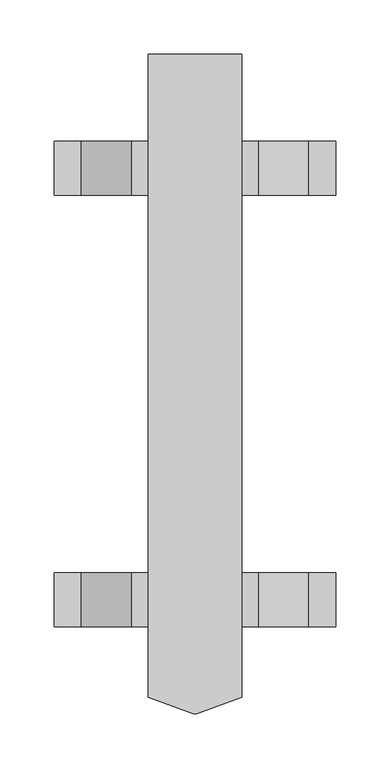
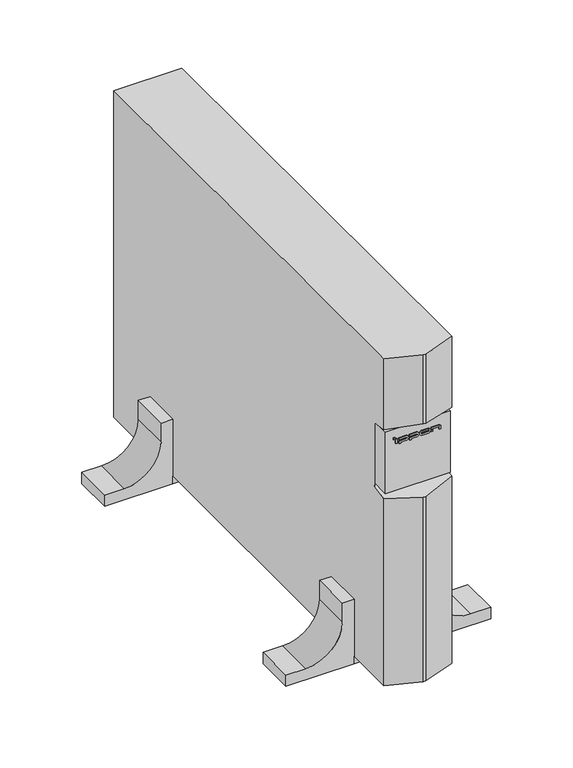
"""IFC4 building model written with IfcOpenShell, lengths in millimetres: proxy geometry, IPPON_EBM_Innova RT_1000_1500-2000_3000ВА : БМ Innova RT 3000 ВА."""

from ifc_helpers import new_model, si_unit, point, frame, frame_2d, origin, origin_with_axes, place, context, project, spatial, polyline, circle_curve, trimmed, segment, composite_curve, outline, extrude, faceted_brep, source, transform, mapped, element, save


def electrical_equipment_ac7b17f3(model_context):
    return source(origin(), model_context, "Body", "SolidModel", [
        extrude(outline(polyline([(-29.1718133, 14.0), (-31.1718133, 14.0), (-31.1718133, 15.0), (-29.1718133, 15.0), (-29.1718133, 14.0)])), frame((0.0, 0.0, 335.7195835), z_axis=(0.0, 0.0, 1.0), x_axis=(1.0, 0.0, 0.0)), (0.0, 0.0, 1.0), 2.3),
        extrude(outline(polyline([(18.6035474, 14.0), (16.6035474, 14.0), (16.6035474, 15.0), (18.6035474, 15.0), (18.6035474, 14.0)])), frame((0.0, 0.0, 329.7195835), z_axis=(0.0, 0.0, 1.0), x_axis=(1.0, 0.0, 0.0)), (0.0, 0.0, 1.0), 2.2268231),
        extrude(outline(polyline([(-26.438565, 14.0), (-28.4833324, 14.0), (-28.4833324, 15.0), (-26.438565, 15.0), (-26.438565, 14.0)])), frame((0.0, 0.0, 329.7195835), z_axis=(0.0, 0.0, 1.0), x_axis=(1.0, 0.0, 0.0)), (0.0, 0.0, 1.0), 6.0),
        extrude(outline(composite_curve([segment(polyline([(333.4571435, -24.2241109), (333.4571435, -14.9923536)]), True, "CONTINUOUS"), segment(trimmed(circle_curve(frame_2d((332.6006642, -14.9923536)), 0.8564793), [point((333.4571435, -14.9923536))], [point((331.7441849, -14.9923536))], True, "CARTESIAN"), True, "CONTINUOUS"), segment(polyline([(331.7441849, -14.9923536), (331.7441849, -24.2241109), (328.2536803, -24.2241109), (328.2536803, -22.2241109), (329.7195835, -22.2241109), (329.7195835, -15.1486036)]), True, "CONTINUOUS"), segment(trimmed(circle_curve(frame_2d((332.7195835, -15.1486036)), 3.0), [point((329.7195835, -15.1486036))], [point((335.7195835, -15.1486036))], False, "CARTESIAN"), True, "CONTINUOUS"), segment(polyline([(335.7195835, -15.1486036), (335.7195835, -24.2241109), (333.4571435, -24.2241109)]), True, "CONTINUOUS")], self_intersect=False)), frame((0.0, 14.0, 0.0), z_axis=(0.0, 1.0, 0.0), x_axis=(0.0, 0.0, 1.0)), (0.0, 0.0, 1.0), 1.0),
        extrude(outline(composite_curve([segment(polyline([(333.4571435, -11.0171091), (333.4571435, -1.7853518)]), True, "CONTINUOUS"), segment(trimmed(circle_curve(frame_2d((332.6006642, -1.7853518)), 0.8564793), [point((333.4571435, -1.7853518))], [point((331.7441849, -1.7853518))], True, "CARTESIAN"), True, "CONTINUOUS"), segment(polyline([(331.7441849, -1.7853518), (331.7441849, -11.0171091), (328.2536803, -11.0171091), (328.2536803, -9.0171091), (329.7195835, -9.0171091), (329.7195835, -1.9416018)]), True, "CONTINUOUS"), segment(trimmed(circle_curve(frame_2d((332.7195835, -1.9416018)), 3.0), [point((329.7195835, -1.9416018))], [point((335.7195835, -1.9416018))], False, "CARTESIAN"), True, "CONTINUOUS"), segment(polyline([(335.7195835, -1.9416018), (335.7195835, -11.0171091), (333.4571435, -11.0171091)]), True, "CONTINUOUS")], self_intersect=False)), frame((0.0, 14.0, 0.0), z_axis=(0.0, 1.0, 0.0), x_axis=(0.0, 0.0, 1.0)), (0.0, 0.0, 1.0), 1.0),
        extrude(outline(composite_curve([segment(trimmed(circle_curve(frame_2d((332.7195835, 12.558657)), 3.0), [point((329.7195835, 12.558657))], [point((335.7195835, 12.558657))], False, "CARTESIAN"), True, "CONTINUOUS"), segment(polyline([(335.7195835, 12.558657), (335.7195835, 4.958657)]), True, "CONTINUOUS"), segment(trimmed(circle_curve(frame_2d((332.7195835, 4.958657)), 3.0), [point((335.7195835, 4.958657))], [point((329.7195835, 4.958657))], False, "CARTESIAN"), True, "CONTINUOUS"), segment(polyline([(329.7195835, 4.958657), (329.7195835, 12.558657)]), True, "CONTINUOUS")], self_intersect=False), holes=[composite_curve([segment(polyline([(331.7441849, 12.714907), (331.7441849, 4.802407)]), True, "CONTINUOUS"), segment(trimmed(circle_curve(frame_2d((332.6006642, 4.802407)), 0.8564793), [point((331.7441849, 4.802407))], [point((333.4571435, 4.802407))], True, "CARTESIAN"), True, "CONTINUOUS"), segment(polyline([(333.4571435, 4.802407), (333.4571435, 12.714907)]), True, "CONTINUOUS"), segment(trimmed(circle_curve(frame_2d((332.6006642, 12.714907)), 0.8564793), [point((333.4571435, 12.714907))], [point((331.7441849, 12.714907))], True, "CARTESIAN"), True, "CONTINUOUS")], self_intersect=False)]), frame((0.0, 14.0, 0.0), z_axis=(0.0, 1.0, 0.0), x_axis=(0.0, 0.0, 1.0)), (0.0, 0.0, 1.0), 1.0),
        extrude(outline(composite_curve([segment(polyline([(333.4571435, 16.6035474), (333.4571435, 25.8353046)]), True, "CONTINUOUS"), segment(trimmed(circle_curve(frame_2d((332.6006642, 25.8353046)), 0.8564793), [point((333.4571435, 25.8353046))], [point((332.6006642, 26.6917839))], True, "CARTESIAN"), True, "CONTINUOUS"), segment(polyline([(332.6006642, 26.6917839), (329.7195835, 26.6917839), (329.7195835, 28.6317921), (333.25, 28.6317921)]), True, "CONTINUOUS"), segment(trimmed(circle_curve(frame_2d((332.7195835, 25.6790546)), 3.0), [point((333.25, 28.6317921))], [point((335.7195835, 25.6790546))], False, "CARTESIAN"), True, "CONTINUOUS"), segment(polyline([(335.7195835, 25.6790546), (335.7195835, 16.6035474), (333.4571435, 16.6035474)]), True, "CONTINUOUS")], self_intersect=False)), frame((0.0, 14.0, 0.0), z_axis=(0.0, 1.0, 0.0), x_axis=(0.0, 0.0, 1.0)), (0.0, 0.0, 1.0), 1.0),
        extrude(outline(polyline([(-43.25, 528.0), (43.25, 528.0), (43.25, 478.0), (-43.25, 478.0), (-43.25, 528.0)])), origin_with_axes(), (0.0, 0.0, 1.0), 10.0),
        extrude(outline(polyline([(43.25, 80.0), (-43.25, 80.0), (-43.25, 130.0), (43.25, 130.0), (43.25, 80.0)])), origin_with_axes(), (0.0, 0.0, 1.0), 10.0),
        extrude(outline(composite_curve([segment(polyline([(0.0, -43.25), (86.5, -43.25), (86.5, -58.25), (61.5, -58.25)]), True, "CONTINUOUS"), segment(trimmed(circle_curve(frame_2d((61.5, -104.75)), 46.5), [point((61.5, -58.25))], [point((15.0, -104.75))], True, "CARTESIAN"), True, "CONTINUOUS"), segment(polyline([(15.0, -104.75), (15.0, -129.75), (0.0, -129.75), (0.0, -43.25)]), True, "CONTINUOUS")], self_intersect=False)), frame((0.0, 478.0, 0.0), z_axis=(0.0, 1.0, 0.0), x_axis=(0.0, 0.0, 1.0)), (0.0, 0.0, 1.0), 50.0),
        extrude(outline(composite_curve([segment(polyline([(0.0, -43.25), (86.5, -43.25), (86.5, -58.25), (61.5, -58.25)]), True, "CONTINUOUS"), segment(trimmed(circle_curve(frame_2d((61.5, -104.75)), 46.5), [point((61.5, -58.25))], [point((15.0, -104.75))], True, "CARTESIAN"), True, "CONTINUOUS"), segment(polyline([(15.0, -104.75), (15.0, -129.75), (0.0, -129.75), (0.0, -43.25)]), True, "CONTINUOUS")], self_intersect=False)), frame((0.0, 80.0, 0.0), z_axis=(0.0, 1.0, 0.0), x_axis=(0.0, 0.0, 1.0)), (0.0, 0.0, 1.0), 50.0),
        extrude(outline(composite_curve([segment(polyline([(0.0, 129.75), (15.0, 129.75), (15.0, 104.75)]), True, "CONTINUOUS"), segment(trimmed(circle_curve(frame_2d((61.5, 104.75)), 46.5), [point((15.0, 104.75))], [point((61.5, 58.25))], True, "CARTESIAN"), True, "CONTINUOUS"), segment(polyline([(61.5, 58.25), (86.5, 58.25), (86.5, 43.25), (0.0, 43.25), (0.0, 129.75)]), True, "CONTINUOUS")], self_intersect=False)), frame((0.0, 478.0, 0.0), z_axis=(0.0, 1.0, 0.0), x_axis=(0.0, 0.0, 1.0)), (0.0, 0.0, 1.0), 50.0),
        extrude(outline(composite_curve([segment(polyline([(0.0, 43.25), (0.0, 129.75), (15.0, 129.75), (15.0, 104.75)]), True, "CONTINUOUS"), segment(trimmed(circle_curve(frame_2d((61.5, 104.75)), 46.5), [point((15.0, 104.75))], [point((61.5, 58.25))], True, "CARTESIAN"), True, "CONTINUOUS"), segment(polyline([(61.5, 58.25), (86.5, 58.25), (86.5, 43.25), (0.0, 43.25)]), True, "CONTINUOUS")], self_intersect=False)), frame((0.0, 80.0, 0.0), z_axis=(0.0, 1.0, 0.0), x_axis=(0.0, 0.0, 1.0)), (0.0, 0.0, 1.0), 50.0),
        extrude(outline(polyline([(41.25, 15.0), (-41.25, 15.0), (-41.25, 43.0), (41.25, 43.0), (41.25, 15.0)])), frame((0.0, 0.0, 266.75), z_axis=(0.0, 0.0, 1.0), x_axis=(1.0, 0.0, 0.0)), (0.0, 0.0, 1.0), 82.5),
        faceted_brep([(1.5, 0.0, 448.0), (-1.5, 0.0, 448.0), (-1.5, 0.0, 355.25), (1.5, 0.0, 355.25), (-1.5, 0.0, 10.0), (1.5, 0.0, 10.0), (1.5, 0.0, 256.75), (-1.5, 0.0, 256.75), (43.25, 15.0, 10.0), (43.25, 15.0, 260.2383721), (43.25, 15.0, 448.0), (43.25, 15.0, 353.1569767), (43.25, 608.0, 448.0), (-43.25, 608.0, 448.0), (-43.25, 15.0, 448.0), (-43.25, 15.0, 353.1569767), (-43.25, 15.0, 10.0), (-43.25, 15.0, 260.2383721), (-43.25, 608.0, 10.0), (43.25, 608.0, 10.0), (41.25, 43.0, 349.25), (-41.25, 43.0, 349.25), (-41.25, 43.0, 266.75), (41.25, 43.0, 266.75), (43.25, 34.4, 264.75), (43.25, 34.4, 350.45), (-43.25, 34.4, 264.75), (-43.25, 34.4, 350.45)], [[[0, 1, 2, 3]], [[4, 5, 6, 7]], [[5, 8, 9, 6]], [[10, 0, 3, 11]], [[1, 0, 10, 12, 13, 14]], [[1, 14, 15, 2]], [[16, 4, 7, 17]], [[5, 4, 16, 18, 19, 8]], [[20, 21, 22, 23]], [[20, 23, 24, 25]], [[23, 22, 26, 17, 7, 6, 9, 24]], [[22, 21, 27, 26]], [[21, 20, 25, 11, 3, 2, 15, 27]], [[12, 19, 18, 13]], [[13, 18, 16, 17, 26, 27, 15, 14]], [[19, 12, 10, 11, 25, 24, 9, 8]]]),
    ])


if __name__ == "__main__":
    model = new_model("IFC4")
    model_context = context("Model", 3, world=origin())
    ifc_project = project(units=[si_unit("LENGTHUNIT", "METRE", prefix="MILLI")], contexts=[model_context])
    site = spatial("IfcSite", under=ifc_project)
    building = spatial("IfcBuilding", under=site)
    placement = place(None, origin())
    electrical_equipment_shape = electrical_equipment_ac7b17f3(model_context)
    element("IfcBuildingElementProxy", 1, Name="IPPON_EBM_Innova RT_1000_1500-2000_3000ВА : БМ Innova RT 3000 ВА", ObjectType="IPPON_EBM_Innova RT_1000_1500-2000_3000ВА : БМ Innova RT 3000 ВА", at=placement, inside=building, context=model_context, shape_type="MappedRepresentation", body=[
        mapped(electrical_equipment_shape, transform((0.0, 0.0, 0.0), x_axis=(1.0, 0.0, 0.0), y_axis=(0.0, 1.0, 0.0), z_axis=(0.0, 0.0, 1.0))),
    ])
    save(model, "model.ifc")
